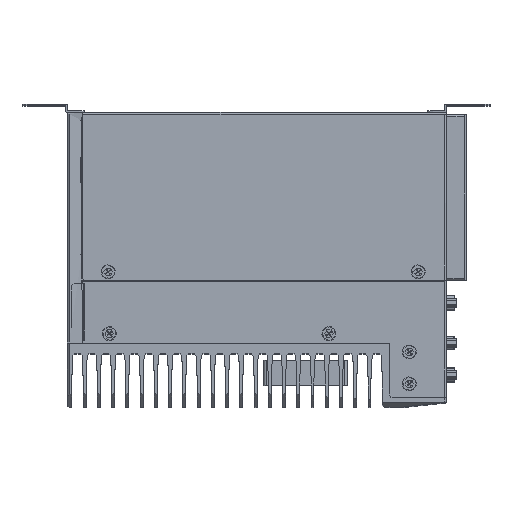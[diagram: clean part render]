
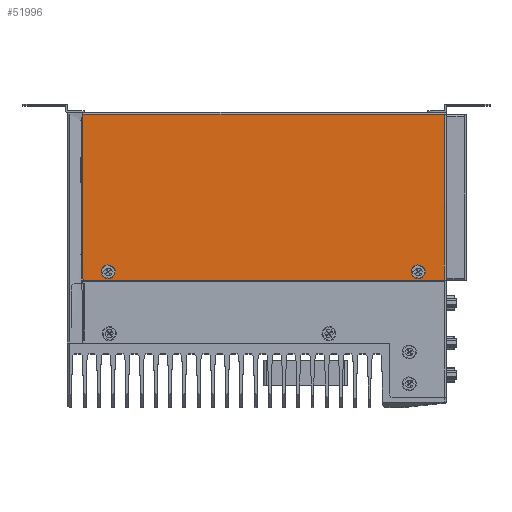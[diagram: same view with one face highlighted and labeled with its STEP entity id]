
A CAD part, top view. The second image highlights one B-rep face of the part: STEP entity #51996.
In plain terms, the highlighted planar face has unit normal (-1, 0, 0) by its records, which use the part's own axes.
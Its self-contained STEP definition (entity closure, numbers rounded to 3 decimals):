
#97 = DIRECTION ( 'NONE',  ( 0., -1., 0. ) ) ;
#497 = EDGE_LOOP ( 'NONE', ( #45968, #118994 ) ) ;
#2042 = CARTESIAN_POINT ( 'NONE',  ( 104.9, 91.7, -95.2 ) ) ;
#4142 = DIRECTION ( 'NONE',  ( 0., 1., 0. ) ) ;
#6197 = ORIENTED_EDGE ( 'NONE', *, *, #36648, .F. ) ;
#7183 = CARTESIAN_POINT ( 'NONE',  ( 104.9, -56.888, -100.1 ) ) ;
#7759 = CARTESIAN_POINT ( 'NONE',  ( 104.9, -108.4, -0.5 ) ) ;
#10112 = AXIS2_PLACEMENT_3D ( 'NONE', #72820, #60286, #26986 ) ;
#13751 = CARTESIAN_POINT ( 'NONE',  ( 104.9, 91.7, -95.2 ) ) ;
#18304 = CARTESIAN_POINT ( 'NONE',  ( 104.9, -108.4, -99.1 ) ) ;
#19202 = CARTESIAN_POINT ( 'NONE',  ( 104.9, -95.85, -95.2 ) ) ;
#19335 = ORIENTED_EDGE ( 'NONE', *, *, #71029, .T. ) ;
#19578 = VECTOR ( 'NONE', #96508, 1000. ) ;
#20286 = LINE ( 'NONE', #131546, #87611 ) ;
#22172 = EDGE_CURVE ( 'NONE', #54037, #81666, #49044, .T. ) ;
#23379 = ORIENTED_EDGE ( 'NONE', *, *, #22172, .T. ) ;
#24083 = ORIENTED_EDGE ( 'NONE', *, *, #27276, .F. ) ;
#24219 = ORIENTED_EDGE ( 'NONE', *, *, #43097, .F. ) ;
#24338 = AXIS2_PLACEMENT_3D ( 'NONE', #47165, #35599, #58260 ) ;
#25101 = DIRECTION ( 'NONE',  ( -1., 0., 0. ) ) ;
#25712 = ORIENTED_EDGE ( 'NONE', *, *, #42443, .T. ) ;
#26986 = DIRECTION ( 'NONE',  ( 0., 0., -1. ) ) ;
#27276 = EDGE_CURVE ( 'NONE', #96982, #63431, #65316, .T. ) ;
#30486 = DIRECTION ( 'NONE',  ( -1., 0., 0. ) ) ;
#34493 = VERTEX_POINT ( 'NONE', #80676 ) ;
#35599 = DIRECTION ( 'NONE',  ( -1., 0., 0. ) ) ;
#36532 = CARTESIAN_POINT ( 'NONE',  ( 104.9, -108.4, -1.1 ) ) ;
#36648 = EDGE_CURVE ( 'NONE', #34493, #131671, #92152, .T. ) ;
#37219 = DIRECTION ( 'NONE',  ( 0., 1., 0. ) ) ;
#38918 = CIRCLE ( 'NONE', #136012, 2.55 ) ;
#39470 = VERTEX_POINT ( 'NONE', #46795 ) ;
#41130 = VECTOR ( 'NONE', #66466, 1000. ) ;
#41868 = CIRCLE ( 'NONE', #87940, 2.55 ) ;
#42443 = EDGE_CURVE ( 'NONE', #47669, #127127, #134563, .T. ) ;
#43097 = EDGE_CURVE ( 'NONE', #63431, #96982, #116763, .T. ) ;
#43520 = VECTOR ( 'NONE', #135682, 1000. ) ;
#45968 = ORIENTED_EDGE ( 'NONE', *, *, #128901, .F. ) ;
#46795 = CARTESIAN_POINT ( 'NONE',  ( 104.9, 89.15, -95.2 ) ) ;
#47165 = CARTESIAN_POINT ( 'NONE',  ( 104.9, -93.3, -95.2 ) ) ;
#47669 = VERTEX_POINT ( 'NONE', #126573 ) ;
#49044 = LINE ( 'NONE', #7759, #19578 ) ;
#50546 = FACE_BOUND ( 'NONE', #497, .T. ) ;
#51996 = ADVANCED_FACE ( 'NONE', ( #64325, #50546, #112627 ), #122838, .F. ) ;
#54037 = VERTEX_POINT ( 'NONE', #18304 ) ;
#55928 = VECTOR ( 'NONE', #74223, 1000. ) ;
#58260 = DIRECTION ( 'NONE',  ( 0., 1., 0. ) ) ;
#60286 = DIRECTION ( 'NONE',  ( 1., 0., 0. ) ) ;
#62033 = CARTESIAN_POINT ( 'NONE',  ( 104.9, 107.3, -1.2 ) ) ;
#63431 = VERTEX_POINT ( 'NONE', #108805 ) ;
#64325 = FACE_OUTER_BOUND ( 'NONE', #65205, .T. ) ;
#65182 = DIRECTION ( 'NONE',  ( 0., 1., 0. ) ) ;
#65205 = EDGE_LOOP ( 'NONE', ( #118080, #25712, #141357, #6197, #118244, #23379, #19335 ) ) ;
#65316 = CIRCLE ( 'NONE', #128570, 2.55 ) ;
#66196 = CARTESIAN_POINT ( 'NONE',  ( 104.9, 107.85, -1.2 ) ) ;
#66466 = DIRECTION ( 'NONE',  ( 0., 0., 1. ) ) ;
#67679 = LINE ( 'NONE', #102817, #43520 ) ;
#68269 = CARTESIAN_POINT ( 'NONE',  ( 104.9, -56.888, 0. ) ) ;
#70444 = LINE ( 'NONE', #134580, #41130 ) ;
#70661 = CARTESIAN_POINT ( 'NONE',  ( 104.9, 107.3, -100.1 ) ) ;
#71029 = EDGE_CURVE ( 'NONE', #81666, #138911, #67679, .T. ) ;
#72321 = VECTOR ( 'NONE', #97, 1000. ) ;
#72820 = CARTESIAN_POINT ( 'NONE',  ( 104.9, -107.4, -99.1 ) ) ;
#74223 = DIRECTION ( 'NONE',  ( 0., 1., 0. ) ) ;
#74350 = AXIS2_PLACEMENT_3D ( 'NONE', #68269, #90950, #123330 ) ;
#80676 = CARTESIAN_POINT ( 'NONE',  ( 104.9, -107.4, -100.1 ) ) ;
#81666 = VERTEX_POINT ( 'NONE', #36532 ) ;
#87269 = VERTEX_POINT ( 'NONE', #93963 ) ;
#87611 = VECTOR ( 'NONE', #142722, 1000. ) ;
#87940 = AXIS2_PLACEMENT_3D ( 'NONE', #13751, #90969, #4142 ) ;
#90950 = DIRECTION ( 'NONE',  ( 1., 0., 0. ) ) ;
#90969 = DIRECTION ( 'NONE',  ( -1., 0., 0. ) ) ;
#92152 = LINE ( 'NONE', #7183, #55928 ) ;
#93963 = CARTESIAN_POINT ( 'NONE',  ( 104.9, 94.25, -95.2 ) ) ;
#96508 = DIRECTION ( 'NONE',  ( 0., 0., 1. ) ) ;
#96982 = VERTEX_POINT ( 'NONE', #19202 ) ;
#101710 = EDGE_CURVE ( 'NONE', #39470, #87269, #38918, .T. ) ;
#102817 = CARTESIAN_POINT ( 'NONE',  ( 104.9, 108.4, -1.1 ) ) ;
#104535 = CARTESIAN_POINT ( 'NONE',  ( 104.9, 108.4, -1.1 ) ) ;
#108805 = CARTESIAN_POINT ( 'NONE',  ( 104.9, -90.75, -95.2 ) ) ;
#112627 = FACE_BOUND ( 'NONE', #136141, .T. ) ;
#113653 = CIRCLE ( 'NONE', #10112, 1. ) ;
#116763 = CIRCLE ( 'NONE', #24338, 2.55 ) ;
#118080 = ORIENTED_EDGE ( 'NONE', *, *, #141245, .F. ) ;
#118244 = ORIENTED_EDGE ( 'NONE', *, *, #119851, .F. ) ;
#118994 = ORIENTED_EDGE ( 'NONE', *, *, #101710, .F. ) ;
#119851 = EDGE_CURVE ( 'NONE', #54037, #34493, #113653, .T. ) ;
#120193 = CARTESIAN_POINT ( 'NONE',  ( 104.9, -93.3, -95.2 ) ) ;
#122838 = PLANE ( 'NONE',  #74350 ) ;
#122845 = EDGE_CURVE ( 'NONE', #131671, #127127, #70444, .T. ) ;
#123330 = DIRECTION ( 'NONE',  ( 0., 0., -1. ) ) ;
#126573 = CARTESIAN_POINT ( 'NONE',  ( 104.9, 108.4, -1.2 ) ) ;
#127127 = VERTEX_POINT ( 'NONE', #62033 ) ;
#128570 = AXIS2_PLACEMENT_3D ( 'NONE', #120193, #30486, #65182 ) ;
#128901 = EDGE_CURVE ( 'NONE', #87269, #39470, #41868, .T. ) ;
#131546 = CARTESIAN_POINT ( 'NONE',  ( 104.9, 108.4, 0. ) ) ;
#131671 = VERTEX_POINT ( 'NONE', #70661 ) ;
#134563 = LINE ( 'NONE', #66196, #72321 ) ;
#134580 = CARTESIAN_POINT ( 'NONE',  ( 104.9, 107.3, 0. ) ) ;
#135682 = DIRECTION ( 'NONE',  ( 0., 1., 0. ) ) ;
#136012 = AXIS2_PLACEMENT_3D ( 'NONE', #2042, #25101, #37219 ) ;
#136141 = EDGE_LOOP ( 'NONE', ( #24219, #24083 ) ) ;
#138911 = VERTEX_POINT ( 'NONE', #104535 ) ;
#141245 = EDGE_CURVE ( 'NONE', #47669, #138911, #20286, .T. ) ;
#141357 = ORIENTED_EDGE ( 'NONE', *, *, #122845, .F. ) ;
#142722 = DIRECTION ( 'NONE',  ( 0., 0., 1. ) ) ;
